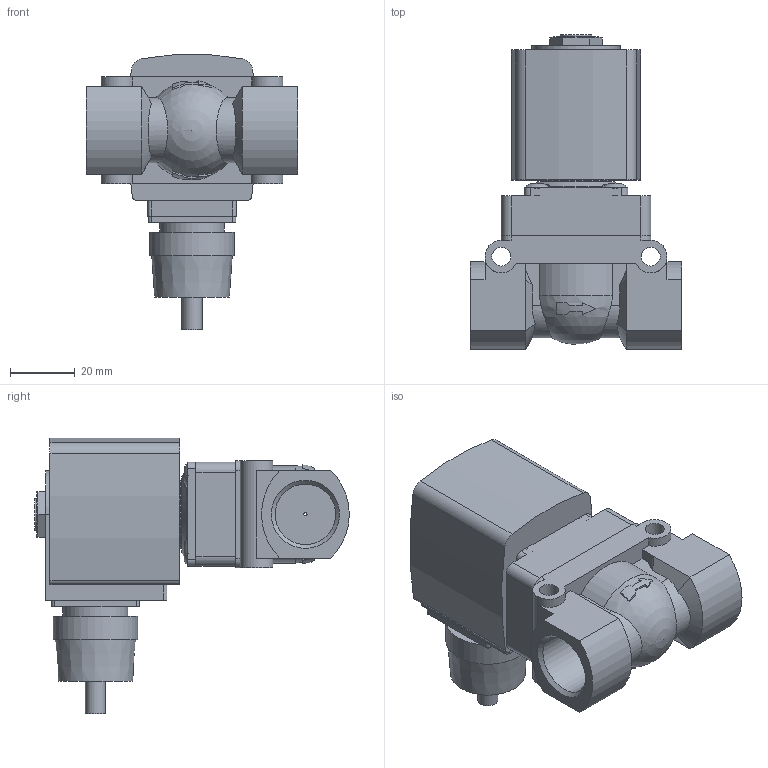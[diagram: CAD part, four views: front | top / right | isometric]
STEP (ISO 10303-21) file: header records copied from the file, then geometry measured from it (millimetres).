
FILE_DESCRIPTION(/* description */ ('STEP AP214'),/* implementation_level */ '2;1');
FILE_NAME(/* name */ '5404-363204-Servo-assisted_2_2_way_piston_valve',/* time_stamp */ '2024-02-29T09:56:19+01:00',/* author */ ('License CC BY-ND 4.0'),/* organization */ ('CADENAS'),/* preprocessor_version */ 'ST-DEVELOPER v19.3',/* originating_system */ 'PARTsolutions',/* authorisation */ ' ');
FILE_SCHEMA (('AUTOMOTIVE_DESIGN {1 0 10303 214 3 1 1}'));
Length unit declared in the file: millimetre
Products named in the file (4): 5404-363204-Servo-assisted 2/2 way piston valve; 5282g-8412MS000-2/2-Wege-Magnetventil_Gehaeuse; 5282d-12MSAU3N-2/2-Wege-Magnetventil_Deckel; AC10ex-6ATEXKabelPlan-Coil
Assembly tree (3 placements, depth 2):
  5404-363204-Servo-assisted 2/2 way piston valve
    5282g-8412MS000-2/2-Wege-Magnetventil_Gehaeuse
    5282d-12MSAU3N-2/2-Wege-Magnetventil_Deckel
    AC10ex-6ATEXKabelPlan-Coil
Bounding box: 65 x 96.8 x 84.63 mm (x, y, z)
Volume: 152438.7 mm3; surface area: 32183.1 mm2
Topology: 3 solids, 3 shells, 193 faces, 477 edges, 311 vertices
Faces by surface type: plane 107, cylinder 62, cone 16, torus 5, sphere 3
Full cylindrical faces by diameter (mm): 1 x1, 4 x4, 5.8 x2, 6.2 x1, 7.5 x4, 7.6 x4, 9.74 x1, 18.631 x2, 20 x1, 21 x1, 26 x1
Entity records: 6048 total; most frequent: CARTESIAN_POINT 1061, DIRECTION 994, ORIENTED_EDGE 870, EDGE_CURVE 435, AXIS2_PLACEMENT_3D 394, VERTEX_POINT 301, EDGE_LOOP 252, FACE_BOUND 252
